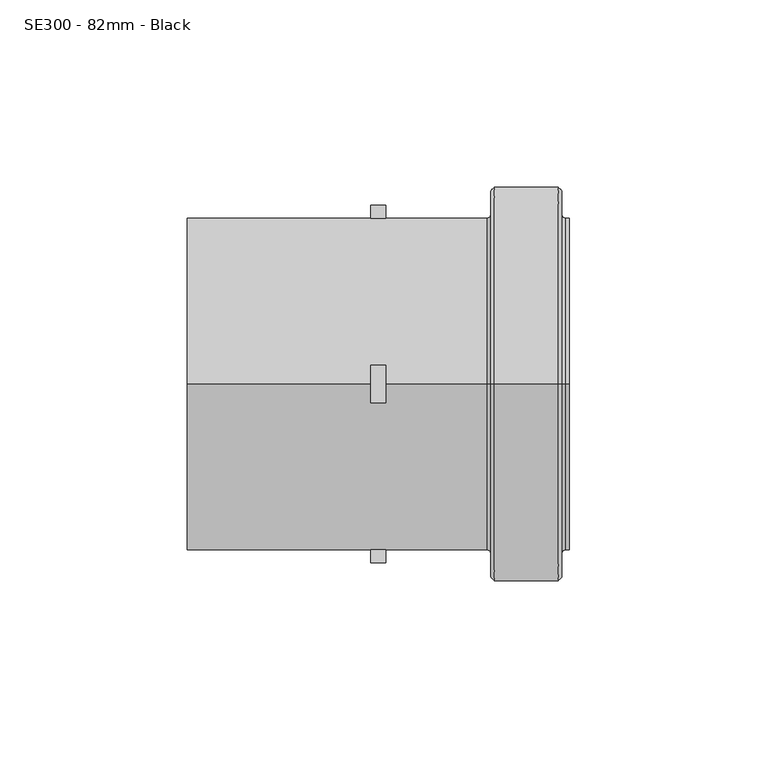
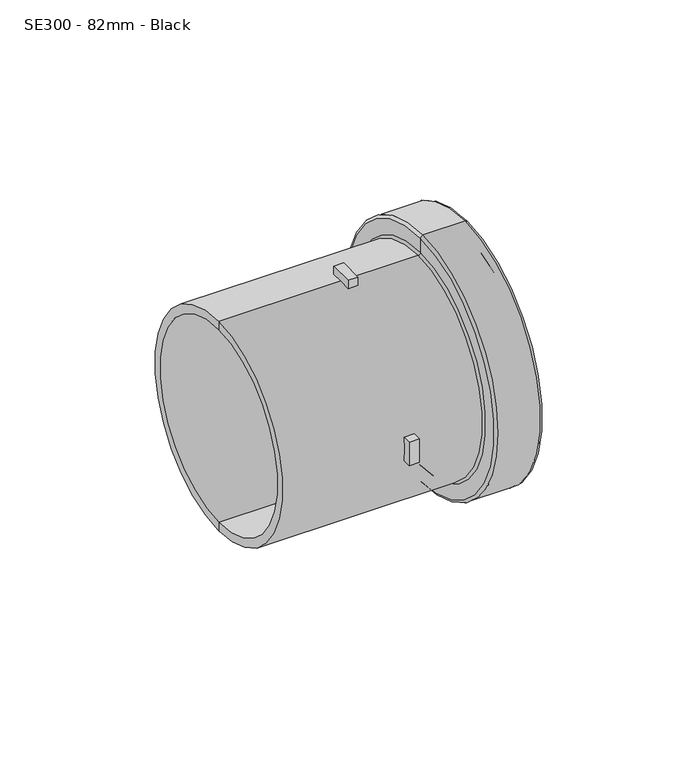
"""IFC4 building model written with IfcOpenShell, lengths in millimetres: pipe fitting geometry, MarleyPlumbingAndDrainage_PipeFitting_LoosePipeSocket : SE300 - 82mm - Black."""

from ifc_helpers import new_model, si_unit, point, frame, origin, origin_2d, place, context, project, spatial, polyline, circle_curve, ellipse_curve, trimmed, segment, composite_curve, outline, extrude, source, transform, mapped, element, save
from ifc_brep_helpers import plane_surface, cylinder_surface, revolved_surface, advanced_brep


def se300_82mm_black_4f185216(model_context):
    return source(origin(), model_context, "Body", "SolidModel", [
        extrude(outline(composite_curve([segment(polyline([(5.0, -44.2182089), (5.0, -47.738873)]), True, "CONTINUOUS"), segment(trimmed(circle_curve(origin_2d(), 48.0), [point((5.0, -47.738873))], [point((-5.0, -47.738873))], False, "CARTESIAN"), True, "CONTINUOUS"), segment(polyline([(-5.0, -47.738873), (-5.0, -44.2182089)]), True, "CONTINUOUS"), segment(trimmed(circle_curve(origin_2d(), 44.5), [point((-5.0, -44.2182089))], [point((5.0, -44.2182089))], True, "CARTESIAN"), True, "CONTINUOUS")], self_intersect=False)), frame((-16.8253818, 0.0, 0.0), z_axis=(1.0, 0.0, 0.0), x_axis=(0.0, 1.0, 0.0)), (0.0, 0.0, 1.0), 4.0),
        extrude(outline(composite_curve([segment(trimmed(circle_curve(origin_2d(), 48.0), [point((-5.0, 47.738873))], [point((5.0, 47.738873))], False, "CARTESIAN"), True, "CONTINUOUS"), segment(polyline([(5.0, 47.738873), (5.0, 44.2182089)]), True, "CONTINUOUS"), segment(trimmed(circle_curve(origin_2d(), 44.5), [point((5.0, 44.2182089))], [point((-5.0, 44.2182089))], True, "CARTESIAN"), True, "CONTINUOUS"), segment(polyline([(-5.0, 44.2182089), (-5.0, 47.738873)]), True, "CONTINUOUS")], self_intersect=False)), frame((-16.8253818, 0.0, 0.0), z_axis=(1.0, 0.0, 0.0), x_axis=(0.0, 1.0, 0.0)), (0.0, 0.0, 1.0), 4.0),
        extrude(outline(composite_curve([segment(polyline([(-44.2104734, -5.0679424), (-47.7317081, -5.0679424)]), True, "CONTINUOUS"), segment(trimmed(circle_curve(origin_2d(), 48.0), [point((-47.7317081, -5.0679424))], [point((-47.7459402, 4.9320576))], False, "CARTESIAN"), True, "CONTINUOUS"), segment(polyline([(-47.7459402, 4.9320576), (-44.2258387, 4.9320576)]), True, "CONTINUOUS"), segment(trimmed(circle_curve(origin_2d(), 44.5), [point((-44.2258387, 4.9320576))], [point((-44.2104734, -5.0679424))], True, "CARTESIAN"), True, "CONTINUOUS")], self_intersect=False)), frame((-16.8253818, 0.0, 0.0), z_axis=(1.0, 0.0, 0.0), x_axis=(0.0, 1.0, 0.0)), (0.0, 0.0, 1.0), 4.0),
        extrude(outline(composite_curve([segment(polyline([(47.7317081, -5.0679424), (44.2104734, -5.0679424)]), True, "CONTINUOUS"), segment(trimmed(circle_curve(origin_2d(), 44.5), [point((44.2104734, -5.0679424))], [point((44.2258387, 4.9320576))], True, "CARTESIAN"), True, "CONTINUOUS"), segment(polyline([(44.2258387, 4.9320576), (47.7459402, 4.9320576)]), True, "CONTINUOUS"), segment(trimmed(circle_curve(origin_2d(), 48.0), [point((47.7459402, 4.9320576))], [point((47.7317081, -5.0679424))], False, "CARTESIAN"), True, "CONTINUOUS")], self_intersect=False)), frame((-16.8253818, 0.0, 0.0), z_axis=(1.0, 0.0, 0.0), x_axis=(0.0, 1.0, 0.0)), (0.0, 0.0, 1.0), 4.0),
        advanced_brep(
        [(-65.8253818, 0.0, -44.5), (-65.8253818, 0.0, 44.5), (14.1746182, 0.0, 44.5), (14.1746182, 0.0, -44.5), (-65.8253818, 0.0, -41.0), (-65.8253818, 0.0, 41.0), (36.1746182, 0.0, -41.0), (36.1746182, 0.0, 41.0), (-17.4253818, 0.0, 41.0), (-17.4253818, 0.0, -41.0), (36.1746182, 0.0, -44.5), (36.1746182, 0.0, 44.5), (-20.3253818, 0.0, -41.0), (-20.3253818, 0.0, 41.0), (-20.3253818, 0.0, 0.0), (-17.4253818, 0.0, 0.0), (35.1746182, 0.0, -44.5), (35.1746182, 0.0, 44.5), (34.1746182, 0.0, -45.5), (34.1746182, 0.0, 45.5), (34.1746182, 0.0, -51.5), (34.1746182, 0.0, 51.5), (33.1746182, 0.0, -52.5), (33.1746182, 0.0, 52.5), (16.1746182, 0.0, -52.5), (16.1746182, 0.0, 52.5), (15.1746182, 0.0, -51.5), (15.1746182, 0.0, 51.5), (15.1746182, 0.0, -45.5), (15.1746182, 0.0, 45.5)],
        [
            (0, 1, circle_curve(frame((-65.8253818, 0.0, 0.0), z_axis=(1.0, 0.0, 0.0), x_axis=(0.0, 0.0, 1.0)), 44.5)),
            (1, 2),
            (2, 3, circle_curve(frame((14.1746182, 0.0, 0.0), z_axis=(-1.0, 0.0, 0.0), x_axis=(0.0, 0.0, 1.0)), 44.5)),
            (3, 0),
            (1, 0, circle_curve(frame((-65.8253818, 0.0, 0.0), z_axis=(1.0, 0.0, 0.0), x_axis=(0.0, 0.0, 1.0)), 44.5)),
            (3, 2, circle_curve(frame((14.1746182, 0.0, 0.0), z_axis=(-1.0, 0.0, 0.0), x_axis=(0.0, 0.0, 1.0)), 44.5)),
            (4, 5, circle_curve(frame((-65.8253818, 0.0, 0.0), z_axis=(1.0, 0.0, 0.0), x_axis=(0.0, 0.0, 1.0)), 41.0)),
            (5, 1),
            (0, 4),
            (5, 4, circle_curve(frame((-65.8253818, 0.0, 0.0), z_axis=(1.0, 0.0, 0.0), x_axis=(0.0, 0.0, 1.0)), 41.0)),
            (6, 7, circle_curve(frame((36.1746182, 0.0, 0.0), z_axis=(1.0, 0.0, 0.0), x_axis=(0.0, 0.0, 1.0)), 41.0)),
            (7, 8),
            (8, 9, circle_curve(frame((-17.4253818, 0.0, 0.0), z_axis=(-1.0, 0.0, 0.0), x_axis=(0.0, 0.0, 1.0)), 41.0)),
            (9, 6),
            (7, 6, circle_curve(frame((36.1746182, 0.0, 0.0), z_axis=(1.0, 0.0, 0.0), x_axis=(0.0, 0.0, 1.0)), 41.0)),
            (9, 8, circle_curve(frame((-17.4253818, 0.0, 0.0), z_axis=(-1.0, 0.0, 0.0), x_axis=(0.0, 0.0, 1.0)), 41.0)),
            (10, 11, circle_curve(frame((36.1746182, 0.0, 0.0), z_axis=(1.0, 0.0, 0.0), x_axis=(0.0, 0.0, 1.0)), 44.5)),
            (11, 7),
            (6, 10),
            (11, 10, circle_curve(frame((36.1746182, 0.0, 0.0), z_axis=(1.0, 0.0, 0.0), x_axis=(0.0, 0.0, 1.0)), 44.5)),
            (12, 13, circle_curve(frame((-20.3253818, 0.0, 0.0), z_axis=(1.0, 0.0, 0.0), x_axis=(0.0, 0.0, 1.0)), 41.0)),
            (13, 5),
            (4, 12),
            (13, 12, circle_curve(frame((-20.3253818, 0.0, 0.0), z_axis=(1.0, 0.0, 0.0), x_axis=(0.0, 0.0, 1.0)), 41.0)),
            (14, 13),
            (12, 14),
            (8, 15),
            (15, 9),
            (16, 17, circle_curve(frame((35.1746182, 0.0, 0.0), z_axis=(1.0, 0.0, 0.0), x_axis=(0.0, 0.0, 1.0)), 44.5)),
            (17, 11),
            (10, 16),
            (17, 16, circle_curve(frame((35.1746182, 0.0, 0.0), z_axis=(1.0, 0.0, 0.0), x_axis=(0.0, 0.0, 1.0)), 44.5)),
            (18, 19, circle_curve(frame((34.1746182, 0.0, 0.0), z_axis=(1.0, 0.0, 0.0), x_axis=(0.0, 0.0, 1.0)), 45.5)),
            (19, 17, circle_curve(frame((35.1746182, 0.0, 45.5), z_axis=(0.0, -1.0, 0.0), x_axis=(1.0, 0.0, 0.0)), 1.0)),
            (16, 18, circle_curve(frame((35.1746182, 0.0, -45.5), z_axis=(0.0, -1.0, 0.0), x_axis=(1.0, 0.0, 0.0)), 1.0)),
            (19, 18, circle_curve(frame((34.1746182, 0.0, 0.0), z_axis=(1.0, 0.0, 0.0), x_axis=(0.0, 0.0, 1.0)), 45.5)),
            (20, 21, circle_curve(frame((34.1746182, 0.0, 0.0), z_axis=(1.0, 0.0, 0.0), x_axis=(0.0, 0.0, 1.0)), 51.5)),
            (21, 19),
            (18, 20),
            (21, 20, circle_curve(frame((34.1746182, 0.0, 0.0), z_axis=(1.0, 0.0, 0.0), x_axis=(0.0, 0.0, 1.0)), 51.5)),
            (22, 23, circle_curve(frame((33.1746182, 0.0, 0.0), z_axis=(1.0, 0.0, 0.0), x_axis=(0.0, 0.0, 1.0)), 52.5)),
            (23, 21, circle_curve(frame((33.1746182, 0.0, 51.5), z_axis=(0.0, 1.0, 0.0), x_axis=(1.0, 0.0, 0.0)), 1.0)),
            (20, 22, circle_curve(frame((33.1746182, 0.0, -51.5), z_axis=(0.0, 1.0, 0.0), x_axis=(1.0, 0.0, 0.0)), 1.0)),
            (23, 22, circle_curve(frame((33.1746182, 0.0, 0.0), z_axis=(1.0, 0.0, 0.0), x_axis=(0.0, 0.0, 1.0)), 52.5)),
            (24, 25, circle_curve(frame((16.1746182, 0.0, 0.0), z_axis=(1.0, 0.0, 0.0), x_axis=(0.0, 0.0, 1.0)), 52.5)),
            (25, 23),
            (22, 24),
            (25, 24, circle_curve(frame((16.1746182, 0.0, 0.0), z_axis=(1.0, 0.0, 0.0), x_axis=(0.0, 0.0, 1.0)), 52.5)),
            (26, 27, circle_curve(frame((15.1746182, 0.0, 0.0), z_axis=(1.0, 0.0, 0.0), x_axis=(0.0, 0.0, 1.0)), 51.5)),
            (27, 25, circle_curve(frame((16.1746182, 0.0, 51.5), z_axis=(0.0, 1.0, 0.0), x_axis=(1.0, 0.0, 0.0)), 1.0)),
            (24, 26, circle_curve(frame((16.1746182, 0.0, -51.5), z_axis=(0.0, 1.0, 0.0), x_axis=(1.0, 0.0, 0.0)), 1.0)),
            (27, 26, circle_curve(frame((15.1746182, 0.0, 0.0), z_axis=(1.0, 0.0, 0.0), x_axis=(0.0, 0.0, 1.0)), 51.5)),
            (28, 29, circle_curve(frame((15.1746182, 0.0, 0.0), z_axis=(1.0, 0.0, 0.0), x_axis=(0.0, 0.0, 1.0)), 45.5)),
            (29, 27),
            (26, 28),
            (29, 28, circle_curve(frame((15.1746182, 0.0, 0.0), z_axis=(1.0, 0.0, 0.0), x_axis=(0.0, 0.0, 1.0)), 45.5)),
            (2, 29, circle_curve(frame((14.1746182, 0.0, 45.5), z_axis=(0.0, -1.0, 0.0), x_axis=(1.0, 0.0, 0.0)), 1.0)),
            (28, 3, circle_curve(frame((14.1746182, 0.0, -45.5), z_axis=(0.0, -1.0, 0.0), x_axis=(1.0, 0.0, 0.0)), 1.0)),
        ],
        [
            cylinder_surface(frame((-1203.7325039, 0.0, 0.0), z_axis=(-1.0, 0.0, 0.0), x_axis=(0.0, 0.0, 1.0)), 44.5),
            plane_surface(frame((-65.8253818, 0.0, 0.0), z_axis=(-1.0, 0.0, 0.0), x_axis=(0.0, 0.0, 1.0))),
            revolved_surface(polyline([(-17.42538179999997, 0.0, 41.0), (36.17461819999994, 0.0, 41.0)]), (-1203.7325039, 0.0, 0.0), (-1.0, 0.0, 0.0)),
            plane_surface(frame((36.1746182, 0.0, 0.0), z_axis=(1.0, 0.0, 0.0), x_axis=(0.0, 0.0, 1.0))),
            revolved_surface(polyline([(-65.82538180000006, 0.0, 41.0), (-20.32538180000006, 0.0, 41.0)]), (-1203.7325039, 0.0, 0.0), (-1.0, 0.0, 0.0)),
            plane_surface(frame((-20.3253818, 0.0, 0.0), z_axis=(-1.0, 0.0, 0.0), x_axis=(0.0, 0.0, 1.0))),
            plane_surface(frame((-17.4253818, 0.0, 0.0), z_axis=(1.0, 0.0, 0.0), x_axis=(0.0, 0.0, 1.0))),
            revolved_surface(trimmed(ellipse_curve(frame((35.1746182, 0.0, 45.5), z_axis=(0.0, 1.0, 0.0), x_axis=(1.0, 0.0, 0.0)), 1.0, 1.0), [point((35.1746182, 0.0, 44.5))], [point((34.1746182, 0.0, 45.5))], True, "CARTESIAN"), (-1203.7325039, 0.0, 0.0), (-1.0, 0.0, 0.0)),
            plane_surface(frame((34.1746182, 0.0, 0.0), z_axis=(1.0, 0.0, 0.0), x_axis=(0.0, 0.0, 1.0))),
            revolved_surface(trimmed(ellipse_curve(frame((33.1746182, 0.0, 51.5), z_axis=(0.0, -1.0, 0.0), x_axis=(1.0, 0.0, 0.0)), 1.0, 1.0), [point((34.1746182, 0.0, 51.5))], [point((33.1746182, 0.0, 52.5))], True, "CARTESIAN"), (-1203.7325039, 0.0, 0.0), (-1.0, 0.0, 0.0)),
            cylinder_surface(frame((-1203.7325039, 0.0, 0.0), z_axis=(-1.0, 0.0, 0.0), x_axis=(0.0, 0.0, 1.0)), 52.5),
            revolved_surface(trimmed(ellipse_curve(frame((16.1746182, 0.0, 51.5), z_axis=(0.0, -1.0, 0.0), x_axis=(1.0, 0.0, 0.0)), 1.0, 1.0), [point((16.1746182, 0.0, 52.5))], [point((15.1746182, 0.0, 51.5))], True, "CARTESIAN"), (-1203.7325039, 0.0, 0.0), (-1.0, 0.0, 0.0)),
            plane_surface(frame((15.1746182, 0.0, 0.0), z_axis=(-1.0, 0.0, 0.0), x_axis=(0.0, 0.0, 1.0))),
            revolved_surface(trimmed(ellipse_curve(frame((14.1746182, 0.0, 45.5), z_axis=(0.0, 1.0, 0.0), x_axis=(1.0, 0.0, 0.0)), 1.0, 1.0), [point((15.1746182, 0.0, 45.5))], [point((14.1746182, 0.0, 44.5))], True, "CARTESIAN"), (-1203.7325039, 0.0, 0.0), (-1.0, 0.0, 0.0)),
        ],
        [
            (0, [[1, 2, 3, 4]]),
            (0, [[5, -4, 6, -2]]),
            (1, [[7, 8, -1, 9]]),
            (1, [[10, -9, -5, -8]]),
            (2, [[11, 12, 13, 14]]),
            (2, [[15, -14, 16, -12]]),
            (3, [[17, 18, -11, 19]]),
            (3, [[20, -19, -15, -18]]),
            (4, [[21, 22, -7, 23]]),
            (4, [[24, -23, -10, -22]]),
            (5, [[25, -21, 26]]),
            (5, [[-26, -24, -25]]),
            (6, [[-13, 27, 28]]),
            (6, [[-16, -28, -27]]),
            (0, [[29, 30, -17, 31]]),
            (0, [[32, -31, -20, -30]]),
            (7, [[33, 34, -29, 35]]),
            (7, [[36, -35, -32, -34]]),
            (8, [[37, 38, -33, 39]]),
            (8, [[40, -39, -36, -38]]),
            (9, [[41, 42, -37, 43]]),
            (9, [[44, -43, -40, -42]]),
            (10, [[45, 46, -41, 47]]),
            (10, [[48, -47, -44, -46]]),
            (11, [[49, 50, -45, 51]]),
            (11, [[52, -51, -48, -50]]),
            (12, [[53, 54, -49, 55]]),
            (12, [[56, -55, -52, -54]]),
            (13, [[-3, 57, -53, 58]]),
            (13, [[-6, -58, -56, -57]]),
        ],
    ),
    ])


if __name__ == "__main__":
    model = new_model("IFC4")
    model_context = context("Model", 3, world=origin())
    ifc_project = project(units=[si_unit("LENGTHUNIT", "METRE", prefix="MILLI")], contexts=[model_context])
    site = spatial("IfcSite", under=ifc_project)
    building = spatial("IfcBuilding", under=site)
    placement = place(None, origin())
    se300_82mm_black_shape = se300_82mm_black_4f185216(model_context)
    element("IfcPipeFitting", 1, ObjectType="MarleyPlumbingAndDrainage_PipeFitting_LoosePipeSocket : SE300 - 82mm - Black", at=placement, inside=building, context=model_context, shape_type="MappedRepresentation", body=[
        mapped(se300_82mm_black_shape, transform((0.0, 0.0, 0.0), x_axis=(1.0, 0.0, 0.0), y_axis=(0.0, 1.0, 0.0), z_axis=(0.0, 0.0, 1.0))),
    ])
    save(model, "model.ifc")
